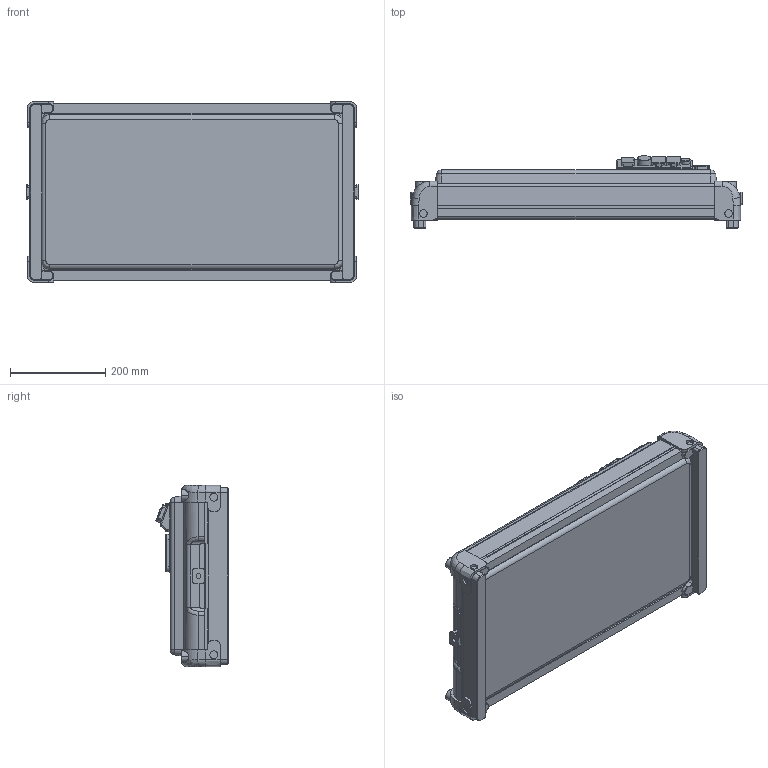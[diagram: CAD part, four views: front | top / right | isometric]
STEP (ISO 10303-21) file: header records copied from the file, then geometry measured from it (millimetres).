
FILE_DESCRIPTION((''),'2;1');
FILE_NAME('V8_SIMPLIFY_WITHOUT_YOKE','2022-07-05T18:22:03',('Evan'),(''),'CREO PARAMETRIC BY PTC INC, 2019010','CREO PARAMETRIC BY PTC INC, 2019010','');
FILE_SCHEMA(('CONFIG_CONTROL_DESIGN'));
Length unit declared in the file: millimetre
Products named in the file (1): V8_SIMPLIFY_WITHOUT_YOKE
Bounding box: 696 x 151.12 x 380 mm (x, y, z)
Volume: 24499678.7 mm3; surface area: 916447.3 mm2
Topology: 1 solids, 2 shells, 814 faces, 2316 edges, 1535 vertices
Faces by surface type: plane 333, cylinder 261, extrusion 80, torus 63, bspline 29, cone 28, sphere 20
Entity records: 29748 total; most frequent: CARTESIAN_POINT 8989, ORIENTED_EDGE 4364, DIRECTION 4020, EDGE_CURVE 2296, VERTEX_POINT 1535, AXIS2_PLACEMENT_3D 1367, VECTOR 1286, LINE 1206
